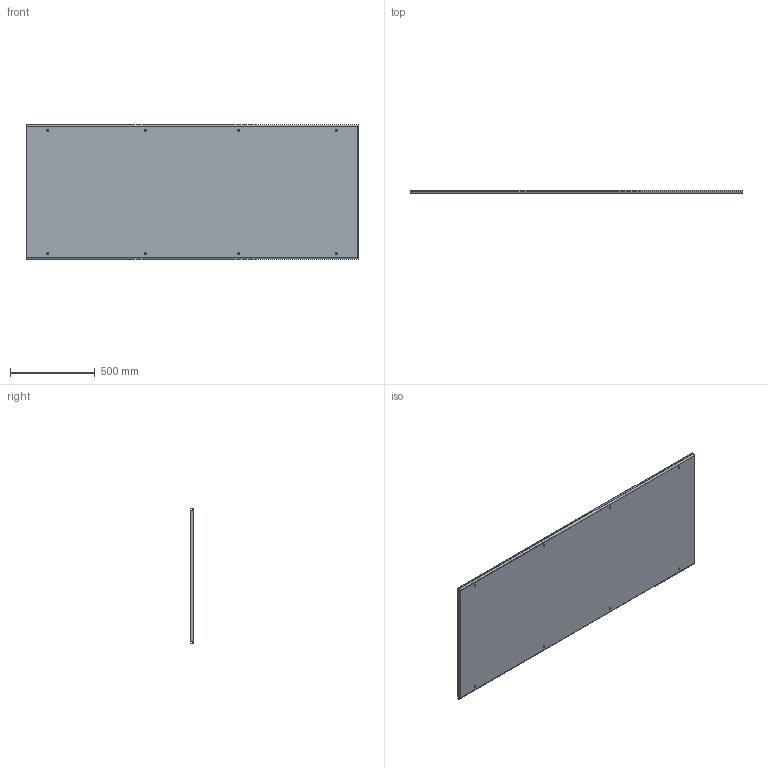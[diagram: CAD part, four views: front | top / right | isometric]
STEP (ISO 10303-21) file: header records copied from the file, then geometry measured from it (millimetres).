
FILE_DESCRIPTION(('CAx-IF Rec.Pracs.---Model Styling and Organization---1.2---2011-12-15','CAx-IF Rec.Pracs.---Geometric and Assembly Validation Properties---4.1---2014-06-16','CAx-IF Rec.Pracs.---PMI Polyline Presentation---2.0---2013-05-24'),'2;1');
FILE_NAME('R5CRE2080.stp','2021-05-06T03:12:50+03:00',(''),(''),'STEP Interface 4.4 by CT CoreTechnologie','3D_Evolution4.4 by CT CoreTechnologie','');
FILE_SCHEMA(('AUTOMOTIVE_DESIGN { 1 0 10303 214 1 1 1 1 }'));
Length unit declared in the file: millimetre
Products named in the file (4): R5CRE2080; AC00C622; QB05T070; QB05C070
Assembly tree (10 placements, depth 3):
  R5CRE2080
    AC00C622  x8
    QB05T070
      QB05C070
Bounding box: 1955 x 20 x 794 mm (x, y, z)
Surface area: 3291890.4 mm2 (no closed solid volume)
Topology: 0 solids, 11 shells, 286 faces, 808 edges, 544 vertices
Faces by surface type: plane 262, bspline 16, cylinder 8
Entity records: 3015 total; most frequent: CARTESIAN_POINT 667, ORIENTED_EDGE 440, DIRECTION 414, EDGE_CURVE 220, VECTOR 168, LINE 168, VERTEX_POINT 152, AXIS2_PLACEMENT_3D 123
